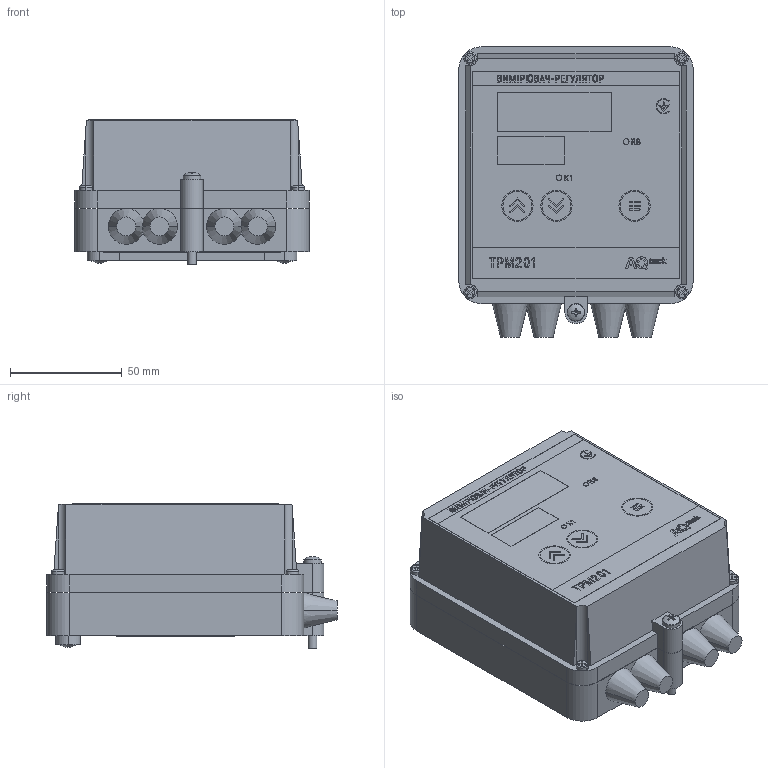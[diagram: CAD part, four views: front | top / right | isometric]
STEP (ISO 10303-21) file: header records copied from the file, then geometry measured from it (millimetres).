
FILE_DESCRIPTION (( 'STEP AP214' ), '1' );
FILE_NAME ('ﾒﾐﾌ2001-ﾍ.ﾐ [U03].STEP', '2025-01-15T11:08:20', ( '' ), ( '' ), 'SwSTEP 2.0', 'SolidWorks 2019', '' );
FILE_SCHEMA (( 'AUTOMOTIVE_DESIGN' ));
Length unit declared in the file: millimetre
Products named in the file (6): ﾒﾐﾌ2001-ﾍ.ﾐ [U03]; B18.6.7M - M4 x 0.7 x 40 Type I Cross Recessed PHMS --40N^ﾒﾐﾌ1-ﾍ.ﾓ.ﾐ [U01]; M4 x 0.7 x 40 Type I Cross Recessed PHMS; AQ_TRM201_001F01M; Êð³ïëåííÿ; Êîðïóñ ÒÐÌ201-Í
Assembly tree (6 placements, depth 2):
  ﾒﾐﾌ2001-ﾍ.ﾐ [U03]
    M4 x 0.7 x 40 Type I Cross Recessed PHMS  x2
    B18.6.7M - M4 x 0.7 x 40 Type I Cross Recessed PHMS --40N^ﾒﾐﾌ1-ﾍ.ﾓ.ﾐ [U01]
    AQ_TRM201_001F01M
    Êîðïóñ ÒÐÌ201-Í
    Êð³ïëåííÿ
Bounding box: 105 x 130 x 64.62 mm (x, y, z)
Volume: 666262.4 mm3; surface area: 110275.4 mm2
Topology: 248 solids, 248 shells, 3725 faces, 9613 edges, 6394 vertices
Faces by surface type: plane 2536, bspline 1057, cylinder 110, torus 11, cone 8, sphere 3
Full cylindrical faces by diameter (mm): 1.274 x1, 2.5 x4, 3.268 x2, 4 x3, 8 x3, 13 x6, 14 x3
Entity records: 159640 total; most frequent: CARTESIAN_POINT 33545, ORIENTED_EDGE 19098, DIRECTION 13001, EDGE_CURVE 9549, VECTOR 7129, LINE 7129, VERTEX_POINT 6370, EDGE_LOOP 3977
